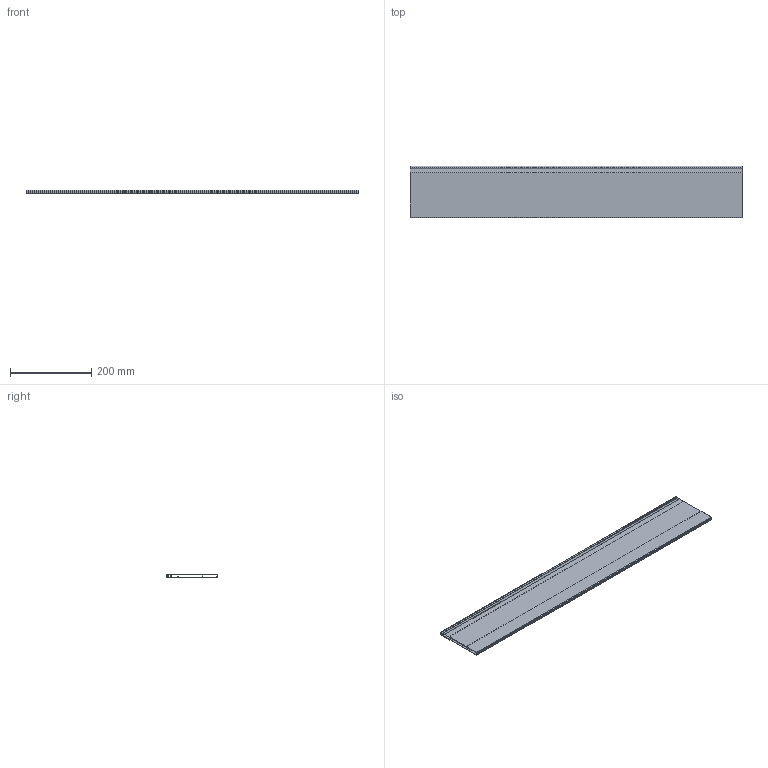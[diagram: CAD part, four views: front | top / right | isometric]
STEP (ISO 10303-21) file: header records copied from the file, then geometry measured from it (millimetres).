
FILE_DESCRIPTION (( 'STEP AP214' ), '1' );
FILE_NAME ('_Magic Optima Unterteilungsprofil DWD XP KAB 950.step', '2010-08-17T12:26:41', ( 'grass' ), ( '' ), 'SwSTEP 2.0', 'SolidWorks 2010', '' );
FILE_SCHEMA (( 'AUTOMOTIVE_DESIGN' ));
Length unit declared in the file: millimetre
Products named in the file (1): _Magic Optima Unterteilungsprofil DWD XP  KAB 950
Bounding box: 816 x 127.7 x 8.1 mm (x, y, z)
Volume: 286027.1 mm3; surface area: 443135.1 mm2
Topology: 1 solids, 1 shells, 39 faces, 111 edges, 74 vertices
Faces by surface type: plane 22, cylinder 17
Entity records: 1325 total; most frequent: CARTESIAN_POINT 225, DIRECTION 225, ORIENTED_EDGE 222, EDGE_CURVE 111, LINE 77, VECTOR 77, AXIS2_PLACEMENT_3D 74, VERTEX_POINT 74
